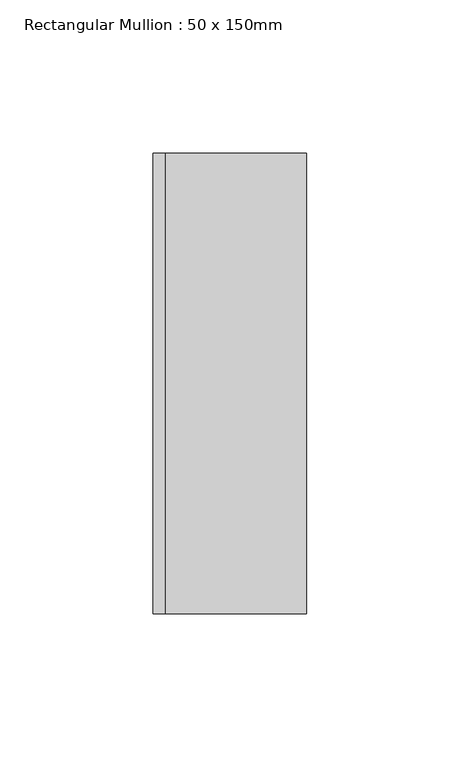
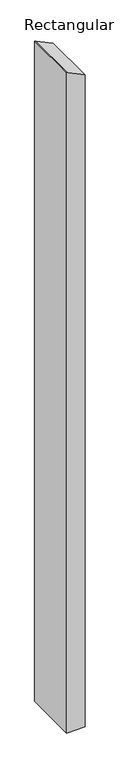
"""IFC4 building model written with IfcOpenShell, lengths in millimetres: member geometry, Rectangular Mullion : 50 x 150mm."""

from ifc_helpers import new_model, si_unit, frame, origin, place, context, project, spatial, polyline, outline, extrude, source, transform, mapped, element, save


def rectangular_mullion_50_x_150mm_492432b2(model_context):
    return source(origin(), model_context, "Body", "SweptSolid", [
        extrude(outline(polyline([(-66.7160961, 25.0), (-45.3934687, -20.9628369), (-43.5375886, -25.0), (-1932.9530234, -25.0), (-1932.9530234, 25.0), (-66.7160961, 25.0)])), frame((0.0, -75.0, 0.0), z_axis=(0.0, 1.0, 0.0), x_axis=(0.0, 0.0, 1.0)), (0.0, 0.0, 1.0), 150.0),
    ])


if __name__ == "__main__":
    model = new_model("IFC4")
    model_context = context("Model", 3, world=origin())
    ifc_project = project(units=[si_unit("LENGTHUNIT", "METRE", prefix="MILLI")], contexts=[model_context])
    site = spatial("IfcSite", under=ifc_project)
    building = spatial("IfcBuilding", under=site)
    placement = place(None, origin())
    rectangular_mullion_50_x_150mm_shape = rectangular_mullion_50_x_150mm_492432b2(model_context)
    element("IfcMember", 1, ObjectType="Rectangular Mullion : 50 x 150mm", at=placement, inside=building, context=model_context, shape_type="MappedRepresentation", body=[
        mapped(rectangular_mullion_50_x_150mm_shape, transform((0.0, 0.0, 0.0), x_axis=(1.0, 0.0, 0.0), y_axis=(0.0, 1.0, 0.0), z_axis=(0.0, 0.0, 1.0))),
    ])
    save(model, "model.ifc")
